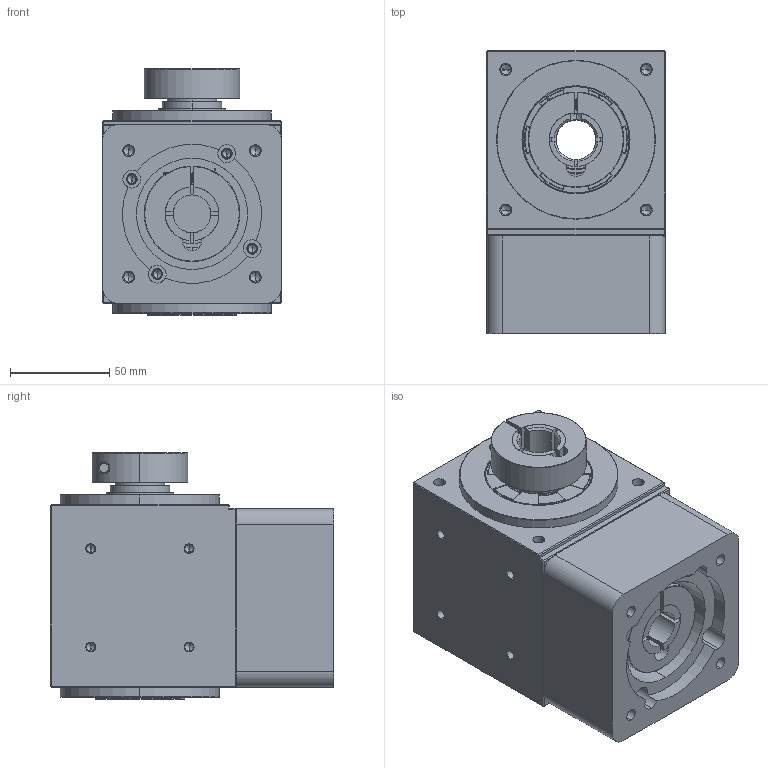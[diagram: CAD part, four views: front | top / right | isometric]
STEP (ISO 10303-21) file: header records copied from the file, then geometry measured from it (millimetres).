
FILE_DESCRIPTION (( 'STEP AP214' ), '1' );
FILE_NAME ('RH90-5(19-70-90-M6).STEP', '2019-01-14T02:45:08', ( '' ), ( '' ), 'SwSTEP 2.0', 'SolidWorks 2016', '' );
FILE_SCHEMA (( 'AUTOMOTIVE_DESIGN' ));
Length unit declared in the file: millimetre
Products named in the file (8): SN90-48x27x15-M6; RH90-(20x20-6x20); RH90-5(19-70-90-M6); R90-45x75x7; R90-5(70-90-M6); R90-5-(19); R90; R90-34x54x8
Assembly tree (8 placements, depth 2):
  RH90-5(19-70-90-M6)
    R90
    RH90-(20x20-6x20)
    R90-5-(19)
    R90-5(70-90-M6)
    R90-34x54x8
    R90-45x75x7
    SN90-48x27x15-M6  x2
Bounding box: 90 x 142.43 x 124 mm (x, y, z)
Volume: 907094.6 mm3; surface area: 186835.5 mm2
Topology: 10 solids, 10 shells, 801 faces, 1997 edges, 1218 vertices
Faces by surface type: cylinder 413, plane 152, cone 140, torus 52, bspline 44
Entity records: 36421 total; most frequent: CARTESIAN_POINT 20636, DIRECTION 3130, ORIENTED_EDGE 3092, EDGE_CURVE 1546, AXIS2_PLACEMENT_3D 1234, VERTEX_POINT 959, EDGE_LOOP 743, VECTOR 662
